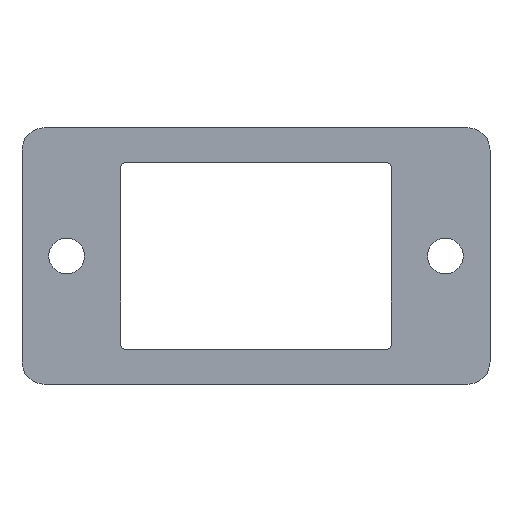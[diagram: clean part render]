
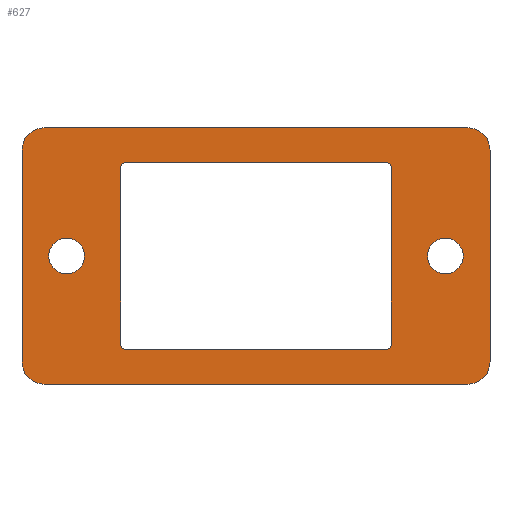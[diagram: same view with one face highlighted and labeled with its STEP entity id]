
A CAD part, top view. The second image highlights one B-rep face of the part: STEP entity #627.
In plain terms, the highlighted planar face has unit normal (0, 0, 1).
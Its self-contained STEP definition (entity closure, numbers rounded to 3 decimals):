
#189 = EDGE_CURVE('',#190,#192,#194,.T.);
#190 = VERTEX_POINT('',#191);
#191 = CARTESIAN_POINT('',(-11.65,-8.4,1.5));
#192 = VERTEX_POINT('',#193);
#193 = CARTESIAN_POINT('',(11.65,-8.4,1.5));
#194 = LINE('',#195,#196);
#195 = CARTESIAN_POINT('',(-12.15,-8.4,1.5));
#196 = VECTOR('',#197,1.);
#197 = DIRECTION('',(1.,0.,0.));
#220 = EDGE_CURVE('',#190,#221,#223,.T.);
#221 = VERTEX_POINT('',#222);
#222 = CARTESIAN_POINT('',(-12.15,-7.9,1.5));
#223 = CIRCLE('',#224,0.5);
#224 = AXIS2_PLACEMENT_3D('',#225,#226,#227);
#225 = CARTESIAN_POINT('',(-11.65,-7.9,1.5));
#226 = DIRECTION('',(0.,0.,-1.));
#227 = DIRECTION('',(0.,1.,0.));
#245 = EDGE_CURVE('',#192,#246,#248,.T.);
#246 = VERTEX_POINT('',#247);
#247 = CARTESIAN_POINT('',(12.15,-7.9,1.5));
#248 = CIRCLE('',#249,0.5);
#249 = AXIS2_PLACEMENT_3D('',#250,#251,#252);
#250 = CARTESIAN_POINT('',(11.65,-7.9,1.5));
#251 = DIRECTION('',(0.,-0.,1.));
#252 = DIRECTION('',(0.,1.,0.));
#270 = EDGE_CURVE('',#271,#221,#273,.T.);
#271 = VERTEX_POINT('',#272);
#272 = CARTESIAN_POINT('',(-12.15,7.9,1.5));
#273 = LINE('',#274,#275);
#274 = CARTESIAN_POINT('',(-12.15,8.4,1.5));
#275 = VECTOR('',#276,1.);
#276 = DIRECTION('',(0.,-1.,0.));
#294 = EDGE_CURVE('',#246,#295,#297,.T.);
#295 = VERTEX_POINT('',#296);
#296 = CARTESIAN_POINT('',(12.15,7.9,1.5));
#297 = LINE('',#298,#299);
#298 = CARTESIAN_POINT('',(12.15,-8.4,1.5));
#299 = VECTOR('',#300,1.);
#300 = DIRECTION('',(0.,1.,0.));
#318 = EDGE_CURVE('',#271,#319,#321,.T.);
#319 = VERTEX_POINT('',#320);
#320 = CARTESIAN_POINT('',(-11.65,8.4,1.5));
#321 = CIRCLE('',#322,0.5);
#322 = AXIS2_PLACEMENT_3D('',#323,#324,#325);
#323 = CARTESIAN_POINT('',(-11.65,7.9,1.5));
#324 = DIRECTION('',(0.,0.,-1.));
#325 = DIRECTION('',(0.,1.,0.));
#343 = EDGE_CURVE('',#295,#344,#346,.T.);
#344 = VERTEX_POINT('',#345);
#345 = CARTESIAN_POINT('',(11.65,8.4,1.5));
#346 = CIRCLE('',#347,0.5);
#347 = AXIS2_PLACEMENT_3D('',#348,#349,#350);
#348 = CARTESIAN_POINT('',(11.65,7.9,1.5));
#349 = DIRECTION('',(0.,-0.,1.));
#350 = DIRECTION('',(0.,1.,0.));
#368 = EDGE_CURVE('',#344,#319,#369,.T.);
#369 = LINE('',#370,#371);
#370 = CARTESIAN_POINT('',(12.15,8.4,1.5));
#371 = VECTOR('',#372,1.);
#372 = DIRECTION('',(-1.,0.,0.));
#387 = VERTEX_POINT('',#388);
#388 = CARTESIAN_POINT('',(-19.,-11.5,1.5));
#394 = EDGE_CURVE('',#387,#395,#397,.T.);
#395 = VERTEX_POINT('',#396);
#396 = CARTESIAN_POINT('',(19.,-11.5,1.5));
#397 = LINE('',#398,#399);
#398 = CARTESIAN_POINT('',(-21.,-11.5,1.5));
#399 = VECTOR('',#400,1.);
#400 = DIRECTION('',(1.,0.,0.));
#418 = VERTEX_POINT('',#419);
#419 = CARTESIAN_POINT('',(-21.,-9.5,1.5));
#425 = EDGE_CURVE('',#387,#418,#426,.T.);
#426 = CIRCLE('',#427,2.);
#427 = AXIS2_PLACEMENT_3D('',#428,#429,#430);
#428 = CARTESIAN_POINT('',(-19.,-9.5,1.5));
#429 = DIRECTION('',(-0.,-0.,-1.));
#430 = DIRECTION('',(0.,-1.,0.));
#443 = VERTEX_POINT('',#444);
#444 = CARTESIAN_POINT('',(21.,-9.5,1.5));
#450 = EDGE_CURVE('',#395,#443,#451,.T.);
#451 = CIRCLE('',#452,2.);
#452 = AXIS2_PLACEMENT_3D('',#453,#454,#455);
#453 = CARTESIAN_POINT('',(19.,-9.5,1.5));
#454 = DIRECTION('',(-0.,0.,1.));
#455 = DIRECTION('',(0.,-1.,0.));
#468 = VERTEX_POINT('',#469);
#469 = CARTESIAN_POINT('',(-21.,9.5,1.5));
#475 = EDGE_CURVE('',#468,#418,#476,.T.);
#476 = LINE('',#477,#478);
#477 = CARTESIAN_POINT('',(-21.,11.5,1.5));
#478 = VECTOR('',#479,1.);
#479 = DIRECTION('',(0.,-1.,0.));
#492 = EDGE_CURVE('',#443,#493,#495,.T.);
#493 = VERTEX_POINT('',#494);
#494 = CARTESIAN_POINT('',(21.,9.5,1.5));
#495 = LINE('',#496,#497);
#496 = CARTESIAN_POINT('',(21.,-11.5,1.5));
#497 = VECTOR('',#498,1.);
#498 = DIRECTION('',(0.,1.,0.));
#516 = VERTEX_POINT('',#517);
#517 = CARTESIAN_POINT('',(-19.,11.5,1.5));
#523 = EDGE_CURVE('',#468,#516,#524,.T.);
#524 = CIRCLE('',#525,2.);
#525 = AXIS2_PLACEMENT_3D('',#526,#527,#528);
#526 = CARTESIAN_POINT('',(-19.,9.5,1.5));
#527 = DIRECTION('',(-0.,-0.,-1.));
#528 = DIRECTION('',(0.,-1.,0.));
#541 = VERTEX_POINT('',#542);
#542 = CARTESIAN_POINT('',(19.,11.5,1.5));
#548 = EDGE_CURVE('',#493,#541,#549,.T.);
#549 = CIRCLE('',#550,2.);
#550 = AXIS2_PLACEMENT_3D('',#551,#552,#553);
#551 = CARTESIAN_POINT('',(19.,9.5,1.5));
#552 = DIRECTION('',(-0.,0.,1.));
#553 = DIRECTION('',(0.,-1.,0.));
#566 = EDGE_CURVE('',#541,#516,#567,.T.);
#567 = LINE('',#568,#569);
#568 = CARTESIAN_POINT('',(21.,11.5,1.5));
#569 = VECTOR('',#570,1.);
#570 = DIRECTION('',(-1.,0.,0.));
#581 = EDGE_CURVE('',#582,#582,#584,.T.);
#582 = VERTEX_POINT('',#583);
#583 = CARTESIAN_POINT('',(-15.4,0.,1.5));
#584 = CIRCLE('',#585,1.6);
#585 = AXIS2_PLACEMENT_3D('',#586,#587,#588);
#586 = CARTESIAN_POINT('',(-17.,0.,1.5));
#587 = DIRECTION('',(0.,0.,1.));
#588 = DIRECTION('',(1.,0.,0.));
#606 = EDGE_CURVE('',#607,#607,#609,.T.);
#607 = VERTEX_POINT('',#608);
#608 = CARTESIAN_POINT('',(18.6,0.,1.5));
#609 = CIRCLE('',#610,1.6);
#610 = AXIS2_PLACEMENT_3D('',#611,#612,#613);
#611 = CARTESIAN_POINT('',(17.,0.,1.5));
#612 = DIRECTION('',(0.,0.,1.));
#613 = DIRECTION('',(1.,0.,0.));
#627 = ADVANCED_FACE('',(#628,#638,#648,#651),#654,.T.);
#628 = FACE_BOUND('',#629,.T.);
#629 = EDGE_LOOP('',(#630,#631,#632,#633,#634,#635,#636,#637));
#630 = ORIENTED_EDGE('',*,*,#189,.F.);
#631 = ORIENTED_EDGE('',*,*,#220,.T.);
#632 = ORIENTED_EDGE('',*,*,#270,.F.);
#633 = ORIENTED_EDGE('',*,*,#318,.T.);
#634 = ORIENTED_EDGE('',*,*,#368,.F.);
#635 = ORIENTED_EDGE('',*,*,#343,.F.);
#636 = ORIENTED_EDGE('',*,*,#294,.F.);
#637 = ORIENTED_EDGE('',*,*,#245,.F.);
#638 = FACE_BOUND('',#639,.T.);
#639 = EDGE_LOOP('',(#640,#641,#642,#643,#644,#645,#646,#647));
#640 = ORIENTED_EDGE('',*,*,#394,.T.);
#641 = ORIENTED_EDGE('',*,*,#450,.T.);
#642 = ORIENTED_EDGE('',*,*,#492,.T.);
#643 = ORIENTED_EDGE('',*,*,#548,.T.);
#644 = ORIENTED_EDGE('',*,*,#566,.T.);
#645 = ORIENTED_EDGE('',*,*,#523,.F.);
#646 = ORIENTED_EDGE('',*,*,#475,.T.);
#647 = ORIENTED_EDGE('',*,*,#425,.F.);
#648 = FACE_BOUND('',#649,.T.);
#649 = EDGE_LOOP('',(#650));
#650 = ORIENTED_EDGE('',*,*,#581,.F.);
#651 = FACE_BOUND('',#652,.T.);
#652 = EDGE_LOOP('',(#653));
#653 = ORIENTED_EDGE('',*,*,#606,.F.);
#654 = PLANE('',#655);
#655 = AXIS2_PLACEMENT_3D('',#656,#657,#658);
#656 = CARTESIAN_POINT('',(0.,0.,1.5));
#657 = DIRECTION('',(0.,0.,1.));
#658 = DIRECTION('',(1.,0.,0.));
